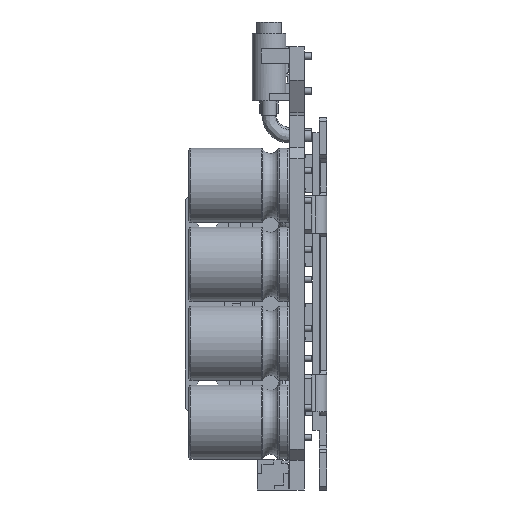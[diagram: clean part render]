
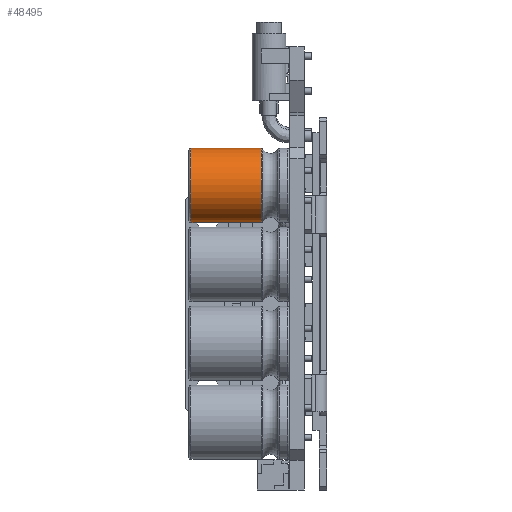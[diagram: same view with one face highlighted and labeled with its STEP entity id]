
A CAD part, left-side view. The second image highlights one B-rep face of the part: STEP entity #48495.
In plain terms, the highlighted cylindrical face has radius 5 mm (diameter 10 mm), a partial arc.
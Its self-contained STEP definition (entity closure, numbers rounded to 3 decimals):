
#16180=DIRECTION('',(0.,1.,0.));
#16181=VECTOR('',#16180,9.435);
#16182=CARTESIAN_POINT('',(-5.94,2.795,0.9));
#16183=LINE('',#16182,#16181);
#16184=DIRECTION('',(0.,-1.,0.));
#16185=VECTOR('',#16184,9.435);
#16186=CARTESIAN_POINT('',(-5.94,12.23,-9.1));
#16187=LINE('',#16186,#16185);
#16188=CARTESIAN_POINT('',(-5.94,2.795,-4.1));
#16189=DIRECTION('',(0.,1.,0.));
#16190=DIRECTION('',(0.,0.,-1.));
#16191=AXIS2_PLACEMENT_3D('',#16188,#16189,#16190);
#16208=CARTESIAN_POINT('',(-5.94,12.23,-4.1));
#16209=DIRECTION('',(0.,-1.,0.));
#16210=DIRECTION('',(0.,0.,1.));
#16211=AXIS2_PLACEMENT_3D('',#16208,#16209,#16210);
#19817=CARTESIAN_POINT('',(-5.94,2.795,-9.1));
#19818=CARTESIAN_POINT('',(-5.94,2.795,0.9));
#19819=VERTEX_POINT('',#19817);
#19820=VERTEX_POINT('',#19818);
#19821=CARTESIAN_POINT('',(-5.94,12.23,-9.1));
#19822=VERTEX_POINT('',#19821);
#19823=CARTESIAN_POINT('',(-5.94,12.23,0.9));
#19824=VERTEX_POINT('',#19823);
#48482=CARTESIAN_POINT('',(-5.94,5.75,-4.1));
#48483=DIRECTION('',(0.,1.,0.));
#48484=DIRECTION('',(0.,0.,-1.));
#48485=AXIS2_PLACEMENT_3D('',#48482,#48483,#48484);
#48486=CYLINDRICAL_SURFACE('',#48485,5.);
#48488=ORIENTED_EDGE('',*,*,#48487,.F.);
#48489=ORIENTED_EDGE('',*,*,#48477,.F.);
#48491=ORIENTED_EDGE('',*,*,#48490,.F.);
#48492=ORIENTED_EDGE('',*,*,#48473,.F.);
#48493=EDGE_LOOP('',(#48488,#48489,#48491,#48492));
#48494=FACE_OUTER_BOUND('',#48493,.F.);
#16192=CIRCLE('',#16191,5.);
#16212=CIRCLE('',#16211,5.);
#48473=EDGE_CURVE('',#19820,#19824,#16183,.T.);
#48477=EDGE_CURVE('',#19822,#19819,#16187,.T.);
#48487=EDGE_CURVE('',#19819,#19820,#16192,.T.);
#48490=EDGE_CURVE('',#19824,#19822,#16212,.T.);
#48495=ADVANCED_FACE('',(#48494),#48486,.T.);
